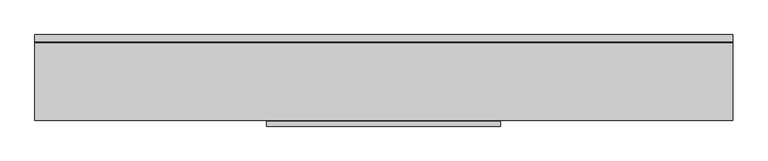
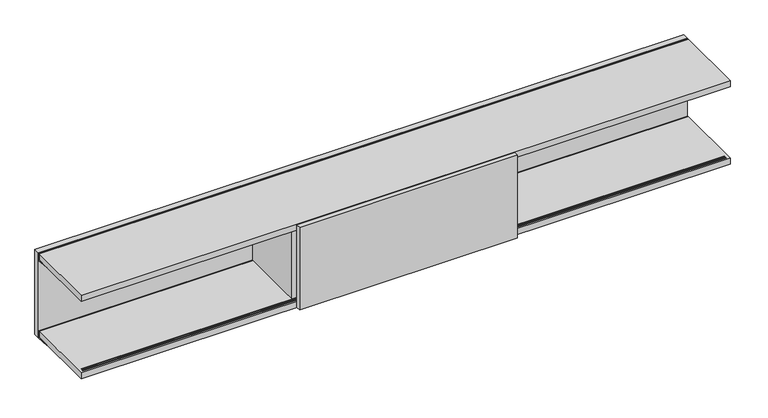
"""IFC4 building model written with IfcOpenShell, lengths in millimetres: furniture geometry, Geiger_GeigerOneCasegoods_OverheadStorageDoubleShelfWithSlidingDoor : Veneer Shelves Horizontal Veneer Back 108Wx 14.125Dx 14.875H."""

from ifc_helpers import new_model, si_unit, point, frame, frame_2d, origin, origin_with_axes, place, context, project, spatial, polyline, circle_curve, trimmed, segment, composite_curve, outline, extrude, faceted_brep, source, transform, mapped, element, save


def furniture_26ee6ef7(model_context):
    return source(origin(), model_context, "Body", "SolidModel", [
        faceted_brep([(2743.2, -344.4077936, 32.0), (2743.2, -344.4077936, 6.0), (2743.2, -38.9077936, 6.0), (2743.2, -38.9077936, 32.0), (0.0, -344.4077936, 32.0), (0.0, -38.9077936, 32.0), (0.0, -38.9077936, 6.0), (0.0, -344.4077936, 6.0), (2730.7, -322.4077936, 32.0), (2730.7, -336.4077936, 32.0), (12.5, -336.4077936, 32.0), (12.5, -322.4077936, 32.0), (2730.7, -322.4077936, 31.0098), (2730.7, -325.5327936, 31.0098), (2730.7, -325.5327936, 24.99), (2730.7, -333.2835936, 24.99), (2730.7, -333.2835936, 31.0098), (2730.7, -336.4077936, 31.0098), (12.5, -322.4077936, 31.0098), (12.5, -336.4077936, 31.0098), (12.5, -333.2835936, 31.0098), (12.5, -333.2835936, 24.99), (12.5, -325.5327936, 24.99), (12.5, -325.5327936, 31.0098)], [[[0, 1, 2, 3]], [[4, 5, 6, 7]], [[1, 0, 4, 7]], [[2, 1, 7, 6]], [[3, 2, 6, 5]], [[0, 3, 5, 4], [8, 9, 10, 11]], [[12, 13, 14, 15, 16, 17, 9, 8]], [[18, 11, 10, 19, 20, 21, 22, 23]], [[12, 8, 11, 18]], [[9, 17, 19, 10]], [[17, 16, 20, 19]], [[16, 15, 21, 20]], [[15, 14, 22, 21]], [[14, 13, 23, 22]], [[13, 12, 18, 23]]]),
        faceted_brep([(2743.2, -38.9077936, 379.0), (2743.2, -344.4077936, 379.0), (2743.2, -344.4077936, 353.0), (2743.2, -38.9077936, 353.0), (0.0, -38.9077936, 379.0), (0.0, -38.9077936, 353.0), (0.0, -344.4077936, 353.0), (0.0, -344.4077936, 379.0), (2730.7, -336.4077936, 353.0), (2730.7, -322.4077936, 353.0), (12.5, -322.4077936, 353.0), (12.5, -336.4077936, 353.0), (2730.7, -322.4077936, 353.9902), (2730.7, -336.4077936, 353.9902), (2730.7, -333.2835936, 353.9902), (2730.7, -333.2835936, 360.01), (2730.7, -325.5327936, 360.01), (2730.7, -325.5327936, 353.9902), (12.5, -322.4077936, 353.9902), (12.5, -325.5327936, 353.9902), (12.5, -325.5327936, 360.01), (12.5, -333.2835936, 360.01), (12.5, -333.2835936, 353.9902), (12.5, -336.4077936, 353.9902)], [[[0, 1, 2, 3]], [[4, 5, 6, 7]], [[1, 0, 4, 7]], [[2, 1, 7, 6]], [[3, 2, 6, 5], [8, 9, 10, 11]], [[0, 3, 5, 4]], [[12, 9, 8, 13, 14, 15, 16, 17]], [[18, 19, 20, 21, 22, 23, 11, 10]], [[12, 17, 19, 18]], [[17, 16, 20, 19]], [[16, 15, 21, 20]], [[15, 14, 22, 21]], [[14, 13, 23, 22]], [[13, 8, 11, 23]], [[9, 12, 18, 10]]]),
        extrude(outline(polyline([(910.9166667, -347.4077936), (1831.0833333, -347.4077936), (1831.0833333, -366.4077936), (910.9166667, -366.4077936), (910.9166667, -347.4077936)])), frame((0.0, 0.0, 9.0), z_axis=(0.0, 0.0, 1.0), x_axis=(1.0, 0.0, 0.0)), (0.0, 0.0, 1.0), 368.825),
        extrude(outline(polyline([(1837.8333333, -32.4077936), (1837.8333333, -321.4077936), (1818.8333333, -321.4077936), (1818.8333333, -32.4077936), (1837.8333333, -32.4077936)])), frame((0.0, 0.0, 32.0), z_axis=(0.0, 0.0, 1.0), x_axis=(1.0, 0.0, 0.0)), (0.0, 0.0, 1.0), 321.0),
        extrude(outline(polyline([(904.1666667, -321.4077936), (904.1666667, -32.4077936), (923.1666667, -32.4077936), (923.1666667, -321.4077936), (904.1666667, -321.4077936)])), frame((0.0, 0.0, 32.0), z_axis=(0.0, 0.0, 1.0), x_axis=(1.0, 0.0, 0.0)), (0.0, 0.0, 1.0), 321.0),
        extrude(outline(polyline([(2743.2, -6.4077936), (2743.2, -32.4077936), (0.0, -32.4077936), (0.0, -6.4077936), (2743.2, -6.4077936)])), origin_with_axes(), (0.0, 0.0, 1.0), 379.0),
        extrude(outline(composite_curve([segment(polyline([(-33.9043936, 31.496), (-32.4057936, 31.496), (-32.4057936, 0.0)]), True, "CONTINUOUS"), segment(trimmed(circle_curve(frame_2d((-31.5258775, 473.2852461)), 473.2860641), [point((-32.4057936, 0.0))], [point((-93.0584748, 4.0161997))], False, "CARTESIAN"), True, "CONTINUOUS"), segment(trimmed(circle_curve(frame_2d((-92.9289669, 5.0038725)), 0.9961275), [point((-93.0584748, 4.0161997))], [point((-92.9289669, 6.0))], False, "CARTESIAN"), True, "CONTINUOUS"), segment(polyline([(-92.9289669, 6.0), (-38.9077936, 6.0), (-38.9077936, 31.496), (-37.4095936, 31.496), (-37.4095936, 26.4922), (-33.9043936, 26.4922), (-33.9043936, 31.496)]), True, "CONTINUOUS")], self_intersect=False)), frame((0.0, 0.0, 0.0), z_axis=(1.0, 0.0, 0.0), x_axis=(0.0, 1.0, 0.0)), (0.0, 0.0, 1.0), 2743.2),
        extrude(outline(composite_curve([segment(polyline([(-33.9043936, 378.496), (-32.4057936, 378.496), (-32.4057936, 347.0)]), True, "CONTINUOUS"), segment(trimmed(circle_curve(frame_2d((-31.5258775, 820.2852461)), 473.2860641), [point((-32.4057936, 347.0))], [point((-93.0584748, 351.0161997))], False, "CARTESIAN"), True, "CONTINUOUS"), segment(trimmed(circle_curve(frame_2d((-92.9289669, 352.0038725)), 0.9961275), [point((-93.0584748, 351.0161997))], [point((-92.9289669, 353.0))], False, "CARTESIAN"), True, "CONTINUOUS"), segment(polyline([(-92.9289669, 353.0), (-38.9077936, 353.0), (-38.9077936, 378.496), (-37.4095936, 378.496), (-37.4095936, 373.4922), (-33.9043936, 373.4922), (-33.9043936, 378.496)]), True, "CONTINUOUS")], self_intersect=False)), frame((0.0, 0.0, 0.0), z_axis=(1.0, 0.0, 0.0), x_axis=(0.0, 1.0, 0.0)), (0.0, 0.0, 1.0), 2743.2),
        extrude(outline(polyline([(-322.4077936, 353.9902), (-322.4077936, 352.9996), (-326.5271936, 352.9996), (-326.5271936, 358.994), (-332.2929936, 358.994), (-332.2929936, 352.9996), (-336.4077936, 352.9996), (-336.4077936, 353.9902), (-333.2835936, 353.9902), (-333.2835936, 360.01), (-325.5327936, 360.01), (-325.5327936, 353.9902), (-322.4077936, 353.9902)])), frame((12.5, 0.0, 0.0), z_axis=(1.0, 0.0, 0.0), x_axis=(0.0, 1.0, 0.0)), (0.0, 0.0, 1.0), 2718.2),
        extrude(outline(polyline([(-322.4077936, 31.0094), (-325.5327936, 31.0094), (-325.5327936, 24.9896), (-333.2835936, 24.9896), (-333.2835936, 31.0094), (-336.4077936, 31.0094), (-336.4077936, 32.0), (-332.2929936, 32.0), (-332.2929936, 26.0056), (-326.5271936, 26.0056), (-326.5271936, 32.0), (-322.4077936, 32.0), (-322.4077936, 31.0094)])), frame((12.5, 0.0, 0.0), z_axis=(1.0, 0.0, 0.0), x_axis=(0.0, 1.0, 0.0)), (0.0, 0.0, 1.0), 2718.2),
        extrude(outline(polyline([(1818.8333333, -347.4077936), (1799.7833333, -347.4077936), (1799.7833333, -344.2327936), (1815.6025358, -344.2327936), (1815.6025358, -328.3577936), (1818.8333333, -328.3577936), (1818.8333333, -347.4077936)])), frame((0.0, 0.0, 35.0), z_axis=(0.0, 0.0, 1.0), x_axis=(1.0, 0.0, 0.0)), (0.0, 0.0, 1.0), 315.0),
        extrude(outline(polyline([(923.1666667, -347.4077936), (923.1666667, -328.3577936), (926.3974642, -328.3577936), (926.3974642, -344.2327936), (942.2166667, -344.2327936), (942.2166667, -347.4077936), (923.1666667, -347.4077936)])), frame((0.0, 0.0, 35.0), z_axis=(0.0, 0.0, 1.0), x_axis=(1.0, 0.0, 0.0)), (0.0, 0.0, 1.0), 315.0),
    ])


if __name__ == "__main__":
    model = new_model("IFC4")
    model_context = context("Model", 3, world=origin())
    ifc_project = project(units=[si_unit("LENGTHUNIT", "METRE", prefix="MILLI")], contexts=[model_context])
    site = spatial("IfcSite", under=ifc_project)
    building = spatial("IfcBuilding", under=site)
    placement = place(None, origin())
    furniture_shape = furniture_26ee6ef7(model_context)
    element("IfcFurniture", 1, ObjectType="Geiger_GeigerOneCasegoods_OverheadStorageDoubleShelfWithSlidingDoor : Veneer Shelves Horizontal Veneer Back 108Wx 14.125Dx 14.875H", at=placement, inside=building, context=model_context, shape_type="MappedRepresentation", body=[
        mapped(furniture_shape, transform((0.0, 0.0, 0.0), x_axis=(1.0, 0.0, 0.0), y_axis=(0.0, 1.0, 0.0), z_axis=(0.0, 0.0, 1.0))),
    ])
    save(model, "model.ifc")
